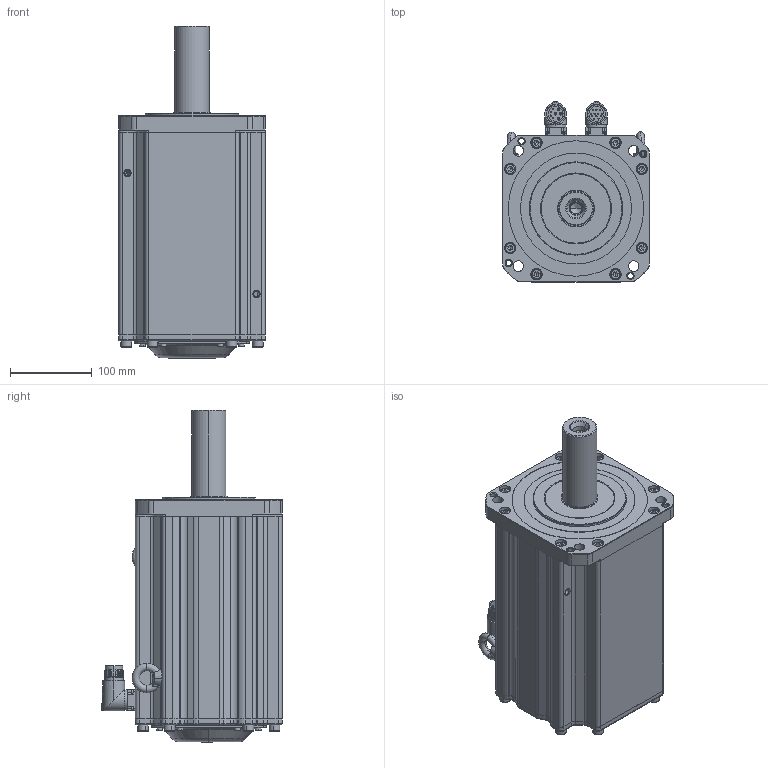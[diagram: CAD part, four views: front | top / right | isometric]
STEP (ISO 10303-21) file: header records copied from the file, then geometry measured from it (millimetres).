
FILE_DESCRIPTION (( 'STEP AP203' ), '1' );
FILE_NAME ('MC20-180-3M15-N752-1¡õPL-NNNN.STEP', '2025-07-30T13:20:53', ( '' ), ( '' ), 'SwSTEP 2.0', 'SolidWorks 2014', '' );
FILE_SCHEMA (( 'CONFIG_CONTROL_DESIGN' ));
Products named in the file (1): MC20-180-3M15-N752-1¡õPL-NNNN
Bounding box: 180 x 221.35 x 406.95 mm (x, y, z)
Volume: 10070721.9 mm3; surface area: 559185 mm2
Topology: 40 solids, 42 shells, 2194 faces, 5079 edges, 3029 vertices
Faces by surface type: plane 879, cylinder 578, cone 482, torus 208, bspline 47
Entity records: 64156 total; most frequent: CARTESIAN_POINT 14091, DIRECTION 10995, ORIENTED_EDGE 9938, EDGE_CURVE 4969, AXIS2_PLACEMENT_3D 4263, VERTEX_POINT 3029, LINE 2469, VECTOR 2469
